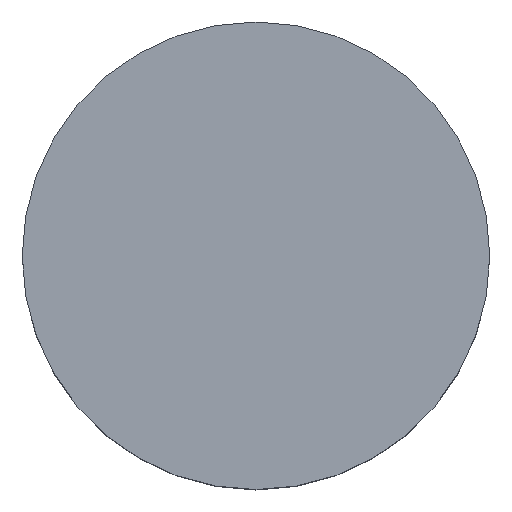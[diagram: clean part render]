
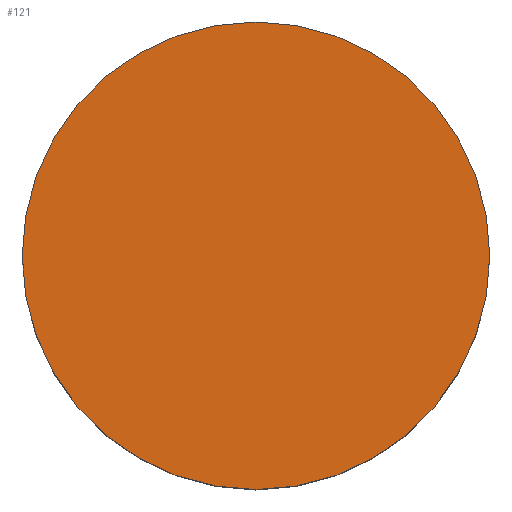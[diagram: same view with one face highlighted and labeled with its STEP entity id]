
A CAD part, top view. The second image highlights one B-rep face of the part: STEP entity #121.
In plain terms, the highlighted planar face has unit normal (0, 0, 1).
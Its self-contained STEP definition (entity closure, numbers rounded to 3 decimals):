
#6 = CIRCLE ( 'NONE', #52, 10. ) ;
#15 = CARTESIAN_POINT ( 'NONE',  ( -10., 0., 10. ) ) ;
#19 = DIRECTION ( 'NONE',  ( 0., 0., -1. ) ) ;
#25 = CARTESIAN_POINT ( 'NONE',  ( 0., 0., 10. ) ) ;
#34 = EDGE_LOOP ( 'NONE', ( #203, #122 ) ) ;
#44 = DIRECTION ( 'NONE',  ( 0., 0., 1. ) ) ;
#52 = AXIS2_PLACEMENT_3D ( 'NONE', #230, #102, #125 ) ;
#87 = DIRECTION ( 'NONE',  ( -1., 0., 0. ) ) ;
#99 = CARTESIAN_POINT ( 'NONE',  ( 10., 0., 10. ) ) ;
#102 = DIRECTION ( 'NONE',  ( 0., 0., 1. ) ) ;
#113 = DIRECTION ( 'NONE',  ( 1., 0., 0. ) ) ;
#121 = ADVANCED_FACE ( 'NONE', ( #248 ), #186, .F. ) ;
#122 = ORIENTED_EDGE ( 'NONE', *, *, #187, .T. ) ;
#125 = DIRECTION ( 'NONE',  ( 1., 0., 0. ) ) ;
#132 = VERTEX_POINT ( 'NONE', #99 ) ;
#149 = CARTESIAN_POINT ( 'NONE',  ( 10., 0., 10. ) ) ;
#152 = VERTEX_POINT ( 'NONE', #15 ) ;
#161 = AXIS2_PLACEMENT_3D ( 'NONE', #149, #19, #87 ) ;
#186 = PLANE ( 'NONE',  #161 ) ;
#187 = EDGE_CURVE ( 'NONE', #152, #132, #6, .T. ) ;
#203 = ORIENTED_EDGE ( 'NONE', *, *, #255, .T. ) ;
#220 = AXIS2_PLACEMENT_3D ( 'NONE', #25, #44, #113 ) ;
#230 = CARTESIAN_POINT ( 'NONE',  ( 0., 0., 10. ) ) ;
#232 = CIRCLE ( 'NONE', #220, 10. ) ;
#248 = FACE_OUTER_BOUND ( 'NONE', #34, .T. ) ;
#255 = EDGE_CURVE ( 'NONE', #132, #152, #232, .T. ) ;
